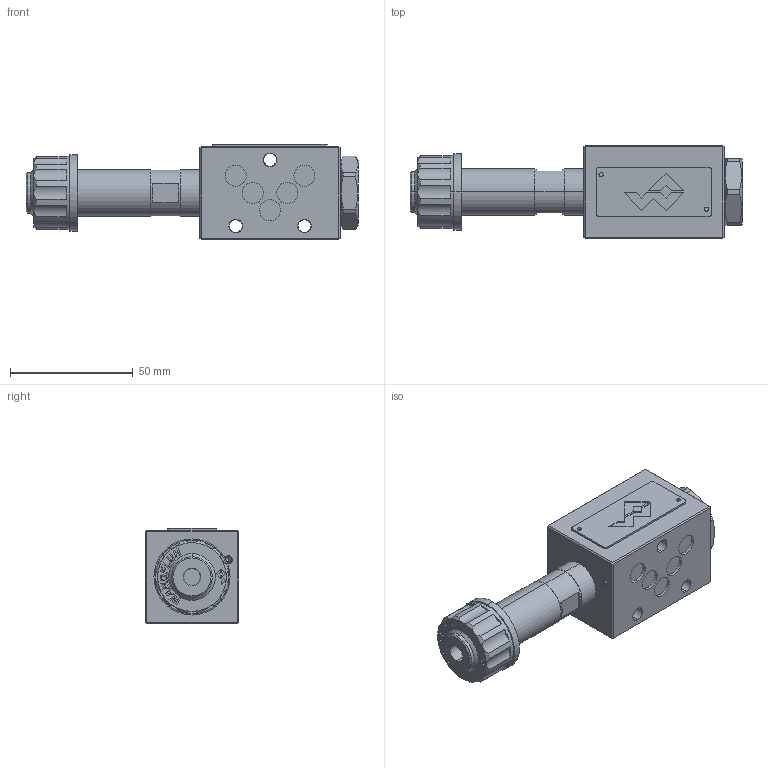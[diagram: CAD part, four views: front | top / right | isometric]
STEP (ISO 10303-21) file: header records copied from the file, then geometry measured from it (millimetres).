
FILE_DESCRIPTION (( 'STEP AP214' ), '1' );
FILE_NAME ('MDPFA04-P_B-25.STEP', '2022-04-08T07:48:45', ( '' ), ( '' ), 'SwSTEP 2.0', 'SolidWorks 2020', '' );
FILE_SCHEMA (( 'AUTOMOTIVE_DESIGN' ));
Length unit declared in the file: millimetre
Products named in the file (1): MDPFA04-P_B-25
Bounding box: 135.35 x 38 x 38.8 mm (x, y, z)
Volume: 109818.3 mm3; surface area: 20958.5 mm2
Topology: 1 solids, 1 shells, 430 faces, 1071 edges, 696 vertices
Faces by surface type: plane 277, cylinder 84, bspline 41, cone 28
Entity records: 19738 total; most frequent: CARTESIAN_POINT 5001, ORIENTED_EDGE 2138, DIRECTION 1938, EDGE_CURVE 1069, LINE 716, VECTOR 716, VERTEX_POINT 696, AXIS2_PLACEMENT_3D 611
